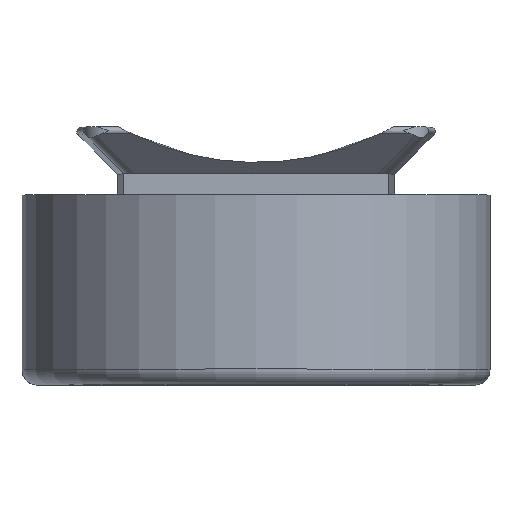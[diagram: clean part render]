
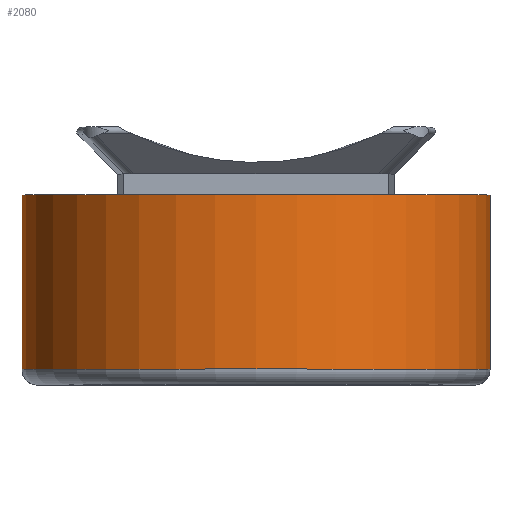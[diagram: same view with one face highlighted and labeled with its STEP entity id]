
A CAD part, top view. The second image highlights one B-rep face of the part: STEP entity #2080.
In plain terms, the highlighted cylindrical face has radius 11.557 mm (diameter 23.114 mm), a partial arc.
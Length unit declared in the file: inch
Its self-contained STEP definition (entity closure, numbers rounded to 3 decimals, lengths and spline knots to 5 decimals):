
#110=CIRCLE('',#2168,0.455);
#123=CIRCLE('',#2196,0.455);
#230=FACE_OUTER_BOUND('',#350,.T.);
#350=EDGE_LOOP('',(#1750,#1751,#1752,#1753));
#524=LINE('',#4498,#679);
#601=LINE('',#5788,#756);
#679=VECTOR('',#2417,0.3937);
#756=VECTOR('',#2590,0.3937);
#858=VERTEX_POINT('',#4471);
#859=VERTEX_POINT('',#4473);
#864=VERTEX_POINT('',#4491);
#879=VERTEX_POINT('',#5204);
#1082=EDGE_CURVE('',#859,#858,#110,.T.);
#1095=EDGE_CURVE('',#859,#864,#524,.T.);
#1117=EDGE_CURVE('',#864,#879,#123,.T.);
#1232=EDGE_CURVE('',#858,#879,#601,.T.);
#1750=ORIENTED_EDGE('',*,*,#1117,.F.);
#1751=ORIENTED_EDGE('',*,*,#1095,.F.);
#1752=ORIENTED_EDGE('',*,*,#1082,.T.);
#1753=ORIENTED_EDGE('',*,*,#1232,.T.);
#1877=CYLINDRICAL_SURFACE('',#2220,0.455);
#2080=ADVANCED_FACE('',(#230),#1877,.T.);
#2168=AXIS2_PLACEMENT_3D('',#4474,#2395,#2396);
#2196=AXIS2_PLACEMENT_3D('',#5206,#2471,#2472);
#2220=AXIS2_PLACEMENT_3D('',#5787,#2588,#2589);
#2395=DIRECTION('center_axis',(0.,-1.,0.));
#2396=DIRECTION('ref_axis',(-1.,0.,0.));
#2417=DIRECTION('',(0.,-1.,0.));
#2471=DIRECTION('center_axis',(0.,-1.,0.));
#2472=DIRECTION('ref_axis',(-1.,0.,0.));
#2588=DIRECTION('center_axis',(0.,-1.,0.));
#2589=DIRECTION('ref_axis',(1.,0.,0.));
#2590=DIRECTION('',(0.,-1.,0.));
#4471=CARTESIAN_POINT('',(-0.55256,-0.59047,-1.26375));
#4473=CARTESIAN_POINT('',(0.35744,-0.59047,-1.26375));
#4474=CARTESIAN_POINT('Origin',(-0.09756,-0.59047,
-1.26375));
#4491=CARTESIAN_POINT('',(0.35744,-0.92947,-1.26375));
#4498=CARTESIAN_POINT('',(0.35744,-0.59047,-1.26375));
#5204=CARTESIAN_POINT('',(-0.55256,-0.92947,-1.26375));
#5206=CARTESIAN_POINT('Origin',(-0.09756,-0.92947,
-1.26375));
#5787=CARTESIAN_POINT('Origin',(-0.09756,-0.75997,
-1.26375));
#5788=CARTESIAN_POINT('',(-0.55256,-0.59047,-1.26375));
